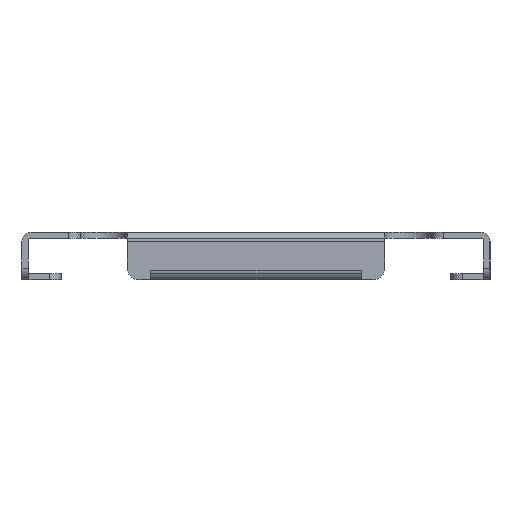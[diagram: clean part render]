
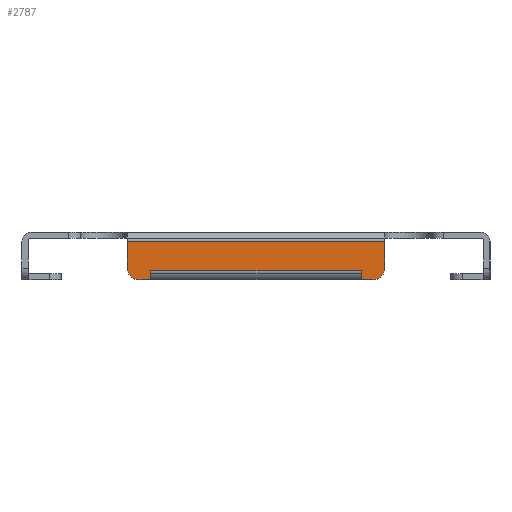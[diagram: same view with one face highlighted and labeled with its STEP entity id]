
A CAD part, left-side view. The second image highlights one B-rep face of the part: STEP entity #2787.
In plain terms, the highlighted planar face has unit normal (-1, 0, 0).
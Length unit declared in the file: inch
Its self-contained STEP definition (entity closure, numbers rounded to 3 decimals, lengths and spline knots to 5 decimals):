
#60=PLANE('',#2999);
#159=FACE_OUTER_BOUND('',#301,.T.);
#301=EDGE_LOOP('',(#1989,#1990,#1991,#1992,#1993,#1994,#1995,#1996,#1997,
#1998,#1999,#2000,#2001,#2002));
#499=LINE('',#4229,#799);
#502=LINE('',#4235,#802);
#503=LINE('',#4237,#803);
#504=LINE('',#4239,#804);
#505=LINE('',#4243,#805);
#506=LINE('',#4245,#806);
#507=LINE('',#4247,#807);
#508=LINE('',#4249,#808);
#509=LINE('',#4251,#809);
#510=LINE('',#4253,#810);
#511=LINE('',#4255,#811);
#512=LINE('',#4256,#812);
#799=VECTOR('',#3400,0.3937);
#802=VECTOR('',#3405,0.3937);
#803=VECTOR('',#3406,0.3937);
#804=VECTOR('',#3407,0.3937);
#805=VECTOR('',#3410,0.3937);
#806=VECTOR('',#3411,0.3937);
#807=VECTOR('',#3412,0.3937);
#808=VECTOR('',#3413,0.3937);
#809=VECTOR('',#3414,0.3937);
#810=VECTOR('',#3415,0.3937);
#811=VECTOR('',#3416,0.3937);
#812=VECTOR('',#3417,0.3937);
#1066=CIRCLE('',#2997,0.125);
#1067=CIRCLE('',#3000,0.125);
#1219=VERTEX_POINT('',#4222);
#1220=VERTEX_POINT('',#4224);
#1221=VERTEX_POINT('',#4228);
#1223=VERTEX_POINT('',#4234);
#1224=VERTEX_POINT('',#4236);
#1225=VERTEX_POINT('',#4238);
#1226=VERTEX_POINT('',#4240);
#1227=VERTEX_POINT('',#4242);
#1228=VERTEX_POINT('',#4244);
#1229=VERTEX_POINT('',#4246);
#1230=VERTEX_POINT('',#4248);
#1231=VERTEX_POINT('',#4250);
#1232=VERTEX_POINT('',#4252);
#1233=VERTEX_POINT('',#4254);
#1531=EDGE_CURVE('',#1219,#1220,#1066,.T.);
#1533=EDGE_CURVE('',#1221,#1220,#499,.T.);
#1536=EDGE_CURVE('',#1219,#1223,#502,.T.);
#1537=EDGE_CURVE('',#1224,#1223,#503,.T.);
#1538=EDGE_CURVE('',#1224,#1225,#504,.T.);
#1539=EDGE_CURVE('',#1226,#1225,#1067,.T.);
#1540=EDGE_CURVE('',#1226,#1227,#505,.T.);
#1541=EDGE_CURVE('',#1227,#1228,#506,.T.);
#1542=EDGE_CURVE('',#1228,#1229,#507,.T.);
#1543=EDGE_CURVE('',#1229,#1230,#508,.T.);
#1544=EDGE_CURVE('',#1230,#1231,#509,.T.);
#1545=EDGE_CURVE('',#1231,#1232,#510,.T.);
#1546=EDGE_CURVE('',#1232,#1233,#511,.T.);
#1547=EDGE_CURVE('',#1233,#1221,#512,.T.);
#1989=ORIENTED_EDGE('',*,*,#1531,.F.);
#1990=ORIENTED_EDGE('',*,*,#1536,.T.);
#1991=ORIENTED_EDGE('',*,*,#1537,.F.);
#1992=ORIENTED_EDGE('',*,*,#1538,.T.);
#1993=ORIENTED_EDGE('',*,*,#1539,.F.);
#1994=ORIENTED_EDGE('',*,*,#1540,.T.);
#1995=ORIENTED_EDGE('',*,*,#1541,.T.);
#1996=ORIENTED_EDGE('',*,*,#1542,.T.);
#1997=ORIENTED_EDGE('',*,*,#1543,.T.);
#1998=ORIENTED_EDGE('',*,*,#1544,.T.);
#1999=ORIENTED_EDGE('',*,*,#1545,.T.);
#2000=ORIENTED_EDGE('',*,*,#1546,.T.);
#2001=ORIENTED_EDGE('',*,*,#1547,.T.);
#2002=ORIENTED_EDGE('',*,*,#1533,.T.);
#2787=ADVANCED_FACE('',(#159),#60,.F.);
#2997=AXIS2_PLACEMENT_3D('',#4225,#3395,#3396);
#2999=AXIS2_PLACEMENT_3D('',#4233,#3403,#3404);
#3000=AXIS2_PLACEMENT_3D('',#4241,#3408,#3409);
#3395=DIRECTION('center_axis',(1.,0.,0.));
#3396=DIRECTION('ref_axis',(0.,-0.707,-0.707));
#3400=DIRECTION('',(0.,-1.,0.));
#3403=DIRECTION('center_axis',(1.,0.,0.));
#3404=DIRECTION('ref_axis',(0.,0.,-1.));
#3405=DIRECTION('',(0.,0.,1.));
#3406=DIRECTION('',(0.,-1.,0.));
#3407=DIRECTION('',(0.,0.,-1.));
#3408=DIRECTION('center_axis',(1.,0.,0.));
#3409=DIRECTION('ref_axis',(0.,0.707,-0.707));
#3410=DIRECTION('',(0.,-1.,0.));
#3411=DIRECTION('',(0.,0.,1.));
#3412=DIRECTION('',(0.,-1.,0.));
#3413=DIRECTION('',(0.,0.,-1.));
#3414=DIRECTION('',(0.,-1.,0.));
#3415=DIRECTION('',(0.,0.,1.));
#3416=DIRECTION('',(0.,-1.,0.));
#3417=DIRECTION('',(0.,0.,-1.));
#4222=CARTESIAN_POINT('',(-12.0625,-1.375,-0.319));
#4224=CARTESIAN_POINT('',(-12.0625,-1.25,-0.444));
#4225=CARTESIAN_POINT('Origin',(-12.0625,-1.25,-0.319));
#4228=CARTESIAN_POINT('',(-12.0625,-1.1252,-0.444));
#4229=CARTESIAN_POINT('',(-12.0625,1.375,-0.444));
#4233=CARTESIAN_POINT('Origin',(-12.0625,0.,-0.188));
#4234=CARTESIAN_POINT('',(-12.0625,-1.375,-0.031));
#4235=CARTESIAN_POINT('',(-12.0625,-1.375,-0.444));
#4236=CARTESIAN_POINT('',(-12.0625,1.375,-0.031));
#4237=CARTESIAN_POINT('',(-12.0625,-1.375,-0.031));
#4238=CARTESIAN_POINT('',(-12.0625,1.375,-0.319));
#4239=CARTESIAN_POINT('',(-12.0625,1.375,0.068));
#4240=CARTESIAN_POINT('',(-12.0625,1.25,-0.444));
#4241=CARTESIAN_POINT('Origin',(-12.0625,1.25,-0.319));
#4242=CARTESIAN_POINT('',(-12.0625,1.1252,-0.444));
#4243=CARTESIAN_POINT('',(-12.0625,1.375,-0.444));
#4244=CARTESIAN_POINT('',(-12.0625,1.1252,-0.3448));
#4245=CARTESIAN_POINT('',(-12.0625,1.1252,-0.316));
#4246=CARTESIAN_POINT('',(-12.0625,1.125,-0.3448));
#4247=CARTESIAN_POINT('',(-12.0625,0.5626,-0.3448));
#4248=CARTESIAN_POINT('',(-12.0625,1.125,-0.345));
#4249=CARTESIAN_POINT('',(-12.0625,1.125,-0.2664));
#4250=CARTESIAN_POINT('',(-12.0625,-1.125,-0.345));
#4251=CARTESIAN_POINT('',(-12.0625,-0.5625,-0.345));
#4252=CARTESIAN_POINT('',(-12.0625,-1.125,-0.3448));
#4253=CARTESIAN_POINT('',(-12.0625,-1.125,-0.316));
#4254=CARTESIAN_POINT('',(-12.0625,-1.1252,-0.3448));
#4255=CARTESIAN_POINT('',(-12.0625,-0.5625,-0.3448));
#4256=CARTESIAN_POINT('',(-12.0625,-1.1252,-0.2664));
